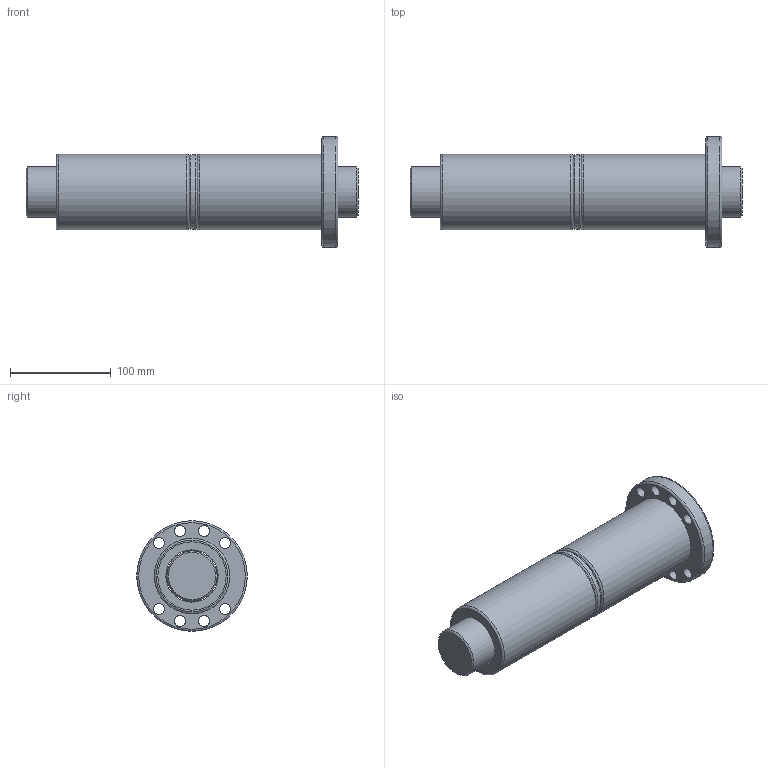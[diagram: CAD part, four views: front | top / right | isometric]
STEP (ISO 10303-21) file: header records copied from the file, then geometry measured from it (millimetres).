
FILE_DESCRIPTION(/* description */ (''),/* implementation_level */ '2;1');
FILE_NAME(/* name */ 'DFU5020',/* time_stamp */ '2007-10-26T11:00:20+08:00',/* author */ (''),/* organization */ (''),/* preprocessor_version */ 'ST-DEVELOPER v9',/* originating_system */ 'EDS PLM SOLUTIONS - UNIGRAPHICS NX 1.0',/* authorisation */ '');
FILE_SCHEMA (('CONFIG_CONTROL_DESIGN'));
Length unit declared in the file: millimetre
Products named in the file (1): FANNDA0400d5
Bounding box: 330 x 110 x 110 mm (x, y, z)
Volume: 1356653.1 mm3; surface area: 208500.5 mm2
Topology: 6 solids, 6 shells, 46 faces, 91 edges, 60 vertices
Faces by surface type: cylinder 22, plane 15, torus 7, cone 2
Full cylindrical faces by diameter (mm): 11 x8, 50 x1, 52 x5, 68 x4, 74 x1, 75 x2, 110 x1
Entity records: 1122 total; most frequent: DIRECTION 200, CARTESIAN_POINT 153, EDGE_LOOP 106, ORIENTED_EDGE 106, AXIS2_PLACEMENT_3D 100, FACE_BOUND 89, VERTEX_POINT 53, EDGE_CURVE 53
